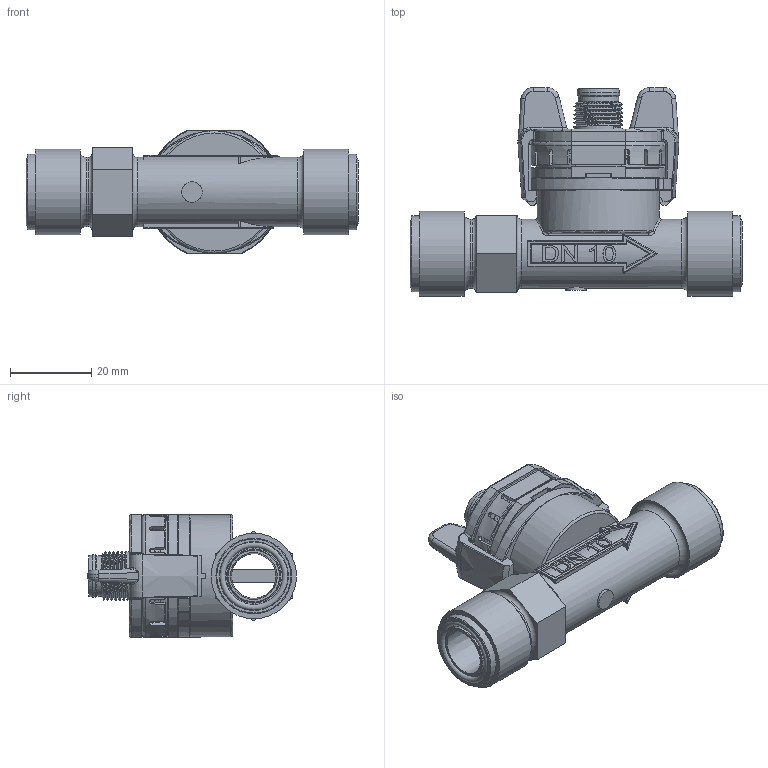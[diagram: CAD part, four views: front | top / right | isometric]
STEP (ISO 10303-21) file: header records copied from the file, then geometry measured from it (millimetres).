
FILE_DESCRIPTION(/* description */ (''),/* implementation_level */ '2;1');
FILE_NAME(/* name */ '2x0_x11x5xK.stp',/* time_stamp */ '2015-04-29T14:17:04+02:00',/* author */ (''),/* organization */ (''),/* preprocessor_version */ 'ST-DEVELOPER v15',/* originating_system */ 'SIEMENS PLM Software NX 9.0',/* authorisation */ '');
FILE_SCHEMA (('AUTOMOTIVE_DESIGN { 1 0 10303 214 3 1 1 1 }'));
Length unit declared in the file: millimetre
Products named in the file (1): Z0020B145E17kfoa
Bounding box: 81.55 x 51.33 x 30.2 mm (x, y, z)
Volume: 34265.1 mm3; surface area: 21406.2 mm2
Topology: 6 solids, 6 shells, 1002 faces, 2624 edges, 1651 vertices
Faces by surface type: plane 357, cylinder 260, extrusion 121, cone 88, bspline 80, torus 77, sphere 18, revolution 1
Full cylindrical faces by diameter (mm): 1 x7, 5 x1, 5.76 x3, 7.98 x4, 8.15 x2, 10 x1, 10.4 x1, 11 x1, 11.6 x1, 12.85 x2, 15.22 x1, 15.4 x1, 16.75 x2, 17 x2, 18.6 x2, 20.955 x2, 30 x1
Entity records: 41718 total; most frequent: CARTESIAN_POINT 14623, ORIENTED_EDGE 4926, DIRECTION 4439, EDGE_CURVE 2463, AXIS2_PLACEMENT_3D 1646, VERTEX_POINT 1609, EDGE_LOOP 1159, VECTOR 1146
